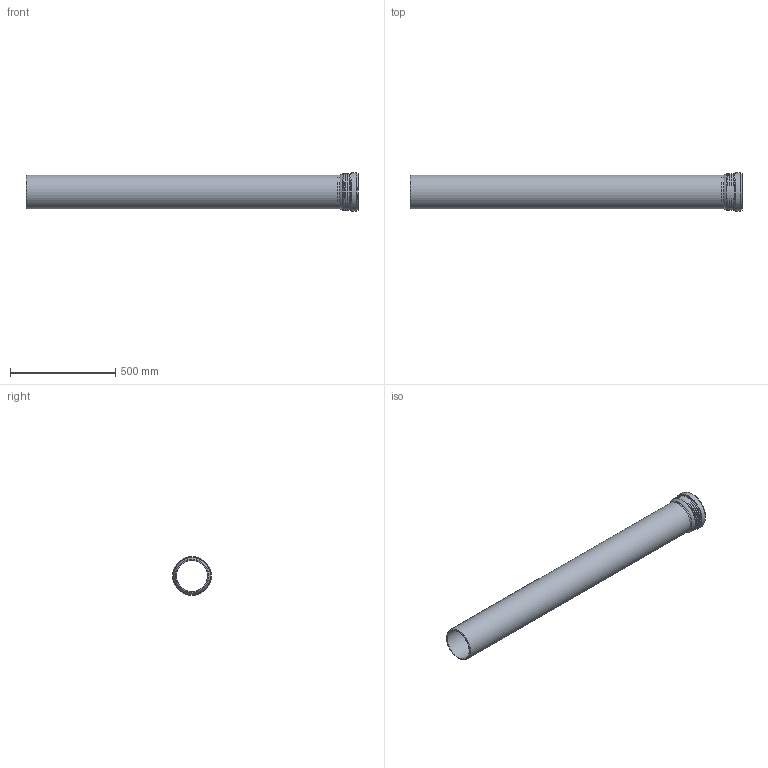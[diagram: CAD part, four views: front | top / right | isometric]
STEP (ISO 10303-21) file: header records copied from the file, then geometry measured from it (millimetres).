
FILE_DESCRIPTION(/* description */ (''),/* implementation_level */ '2;1');
FILE_NAME(/* name */ 'H:\Geberit-Teile\Export\PP_Rohr\stp\393705.stp',/* time_stamp */ '2017-02-13T16:10:51+01:00',/* author */ ('seihe2'),/* organization */ (''),/* preprocessor_version */ 'ST-DEVELOPER v15.2',/* originating_system */ 'Autodesk Inventor 2014',/* authorisation */ '');
FILE_SCHEMA (('AUTOMOTIVE_DESIGN { 1 0 10303 214 3 1 1 }'));
Length unit declared in the file: millimetre
Products named in the file (1): 393705
Bounding box: 1580.6 x 184.86 x 184.86 mm (x, y, z)
Volume: 4673436.7 mm3; surface area: 1578818.3 mm2
Topology: 2 solids, 2 shells, 38 faces, 79 edges, 54 vertices
Faces by surface type: torus 18, cylinder 10, plane 8, cone 2
Full cylindrical faces by diameter (mm): 148.25 x2, 160.25 x2, 161.4 x1, 164.8 x1, 172.2 x1, 174.6 x1, 175.6 x1, 184.86 x1
Entity records: 2318 total; most frequent: CARTESIAN_POINT 1552, DIRECTION 128, ORIENTED_EDGE 118, EDGE_LOOP 70, AXIS2_PLACEMENT_3D 64, EDGE_CURVE 59, VERTEX_POINT 53, STYLED_ITEM 40
